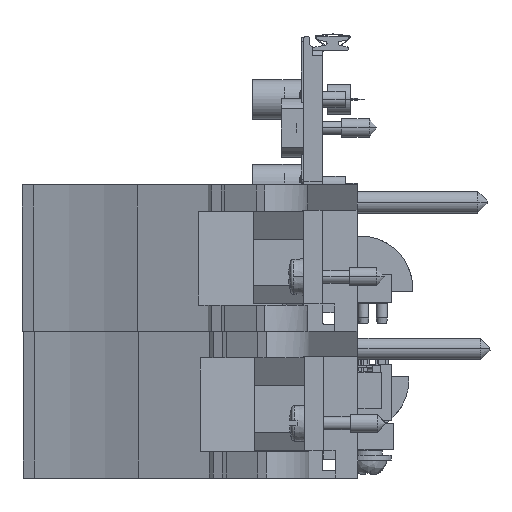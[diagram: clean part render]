
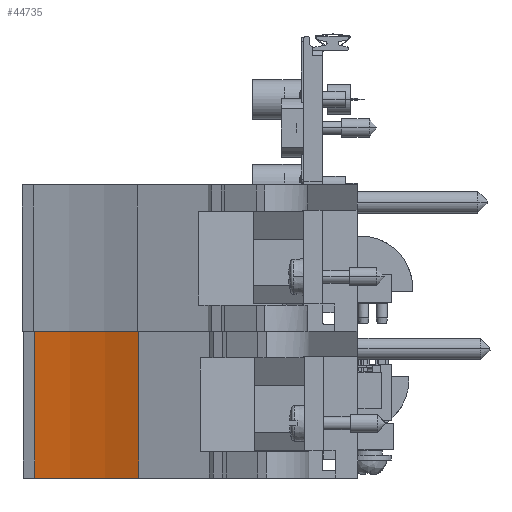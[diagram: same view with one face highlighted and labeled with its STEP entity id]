
A CAD part, front view. The second image highlights one B-rep face of the part: STEP entity #44735.
In plain terms, the highlighted cylindrical face has radius 51.46 mm (diameter 102.919 mm), a partial arc.
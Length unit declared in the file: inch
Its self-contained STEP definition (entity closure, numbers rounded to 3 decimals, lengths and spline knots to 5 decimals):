
#1406=CARTESIAN_POINT('',(-1.9742,-5.95044,-0.09388));
#1407=DIRECTION('',(0.,0.,1.));
#1408=DIRECTION('',(0.435,0.9,0.));
#1409=AXIS2_PLACEMENT_3D('',#1406,#1407,#1408);
#1969=DIRECTION('',(0.,0.,1.));
#1970=VECTOR('',#1969,0.788);
#1971=CARTESIAN_POINT('',(-1.09289,-4.1262,
-0.09388));
#1972=LINE('',#1971,#1970);
#2023=DIRECTION('',(0.,0.,1.));
#2024=VECTOR('',#2023,0.788);
#2025=CARTESIAN_POINT('',(-1.65087,-3.95044,-0.09388));
#2026=LINE('',#2025,#2024);
#2031=CARTESIAN_POINT('',(-1.9742,-5.95044,0.69412));
#2032=DIRECTION('',(0.,0.,1.));
#2033=DIRECTION('',(0.435,0.9,0.));
#2034=AXIS2_PLACEMENT_3D('',#2031,#2032,#2033);
#33220=CARTESIAN_POINT('',(-1.09289,-4.1262,
-0.09388));
#33221=CARTESIAN_POINT('',(-1.65087,-3.95044,-0.09388));
#33222=VERTEX_POINT('',#33220);
#33223=VERTEX_POINT('',#33221);
#40914=CARTESIAN_POINT('',(-1.65087,-3.95044,0.69412));
#40915=VERTEX_POINT('',#40914);
#40926=CARTESIAN_POINT('',(-1.09289,-4.1262,
0.69412));
#40927=VERTEX_POINT('',#40926);
#44724=CARTESIAN_POINT('',(-1.9742,-5.95044,0.69412));
#44725=DIRECTION('',(0.,0.,1.));
#44726=DIRECTION('',(0.,1.,0.));
#44727=AXIS2_PLACEMENT_3D('',#44724,#44725,#44726);
#44728=CYLINDRICAL_SURFACE('',#44727,2.02597);
#44729=ORIENTED_EDGE('',*,*,#44690,.F.);
#44730=ORIENTED_EDGE('',*,*,#44653,.F.);
#44731=ORIENTED_EDGE('',*,*,#43936,.T.);
#44732=ORIENTED_EDGE('',*,*,#44717,.T.);
#44733=EDGE_LOOP('',(#44729,#44730,#44731,#44732));
#44734=FACE_OUTER_BOUND('',#44733,.F.);
#44735=ADVANCED_FACE('',(#44734),#44728,.F.);
#1410=CIRCLE('',#1409,2.02597);
#2035=CIRCLE('',#2034,2.02597);
#43936=EDGE_CURVE('',#33222,#33223,#1410,.T.);
#44653=EDGE_CURVE('',#33222,#40927,#1972,.T.);
#44690=EDGE_CURVE('',#40927,#40915,#2035,.T.);
#44717=EDGE_CURVE('',#33223,#40915,#2026,.T.);
